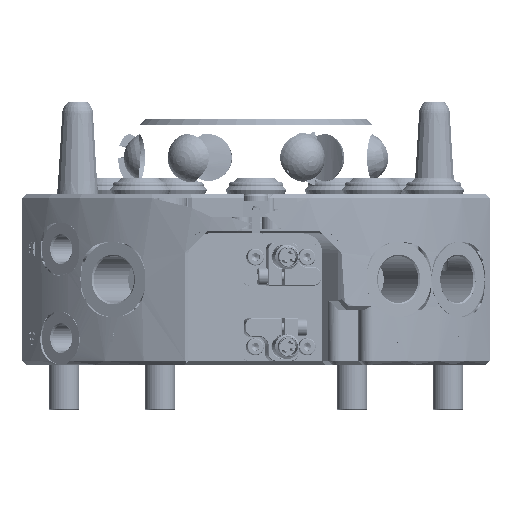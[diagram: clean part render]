
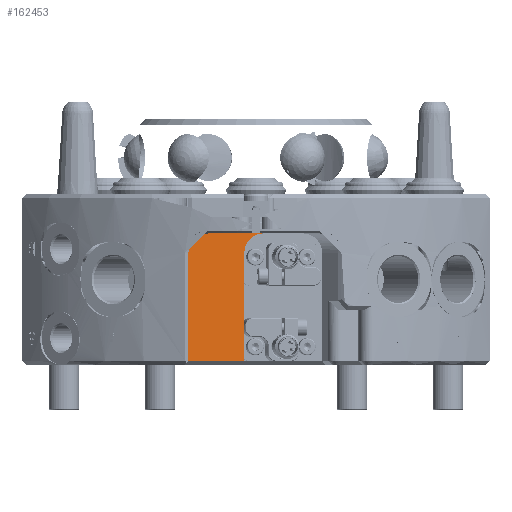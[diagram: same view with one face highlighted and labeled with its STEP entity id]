
A CAD part, left-side view. The second image highlights one B-rep face of the part: STEP entity #162453.
In plain terms, the highlighted planar face has unit normal (0.99, 0.139, 0).
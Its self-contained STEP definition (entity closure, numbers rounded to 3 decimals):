
#596 = DIRECTION ( 'NONE',  ( 0., 0., 1. ) ) ;
#1858 = B_SPLINE_CURVE_WITH_KNOTS ( 'NONE', 3,
 ( #85074, #99276, #141988, #57220, #156207, #71480 ),
 .UNSPECIFIED., .F., .F.,
 ( 4, 2, 4 ),
 ( 0., 0.5, 1. ),
 .UNSPECIFIED. ) ;
#5485 = CARTESIAN_POINT ( 'NONE',  ( -72.668, -2.437, -37.2 ) ) ;
#8625 = AXIS2_PLACEMENT_3D ( 'NONE', #54927, #153926, #69181 ) ;
#12131 = DIRECTION ( 'NONE',  ( 0.139, -0.99, 0. ) ) ;
#15771 = CARTESIAN_POINT ( 'NONE',  ( -74.508, 10.654, -37.2 ) ) ;
#16792 = VECTOR ( 'NONE', #596, 1000. ) ;
#18589 = CARTESIAN_POINT ( 'NONE',  ( -76.37, 23.904, -57.95 ) ) ;
#19519 = EDGE_CURVE ( 'NONE', #58074, #92289, #171628, .T. ) ;
#30015 = DIRECTION ( 'NONE',  ( -0.139, 0.99, 0. ) ) ;
#34199 = ORIENTED_EDGE ( 'NONE', *, *, #19519, .F. ) ;
#38447 = ORIENTED_EDGE ( 'NONE', *, *, #143841, .F. ) ;
#41129 = CARTESIAN_POINT ( 'NONE',  ( -73.545, 3.802, -43.5 ) ) ;
#42306 = CARTESIAN_POINT ( 'NONE',  ( -76.37, 23.904, -43.5 ) ) ;
#42616 = CARTESIAN_POINT ( 'NONE',  ( -73.545, 3.802, -57.95 ) ) ;
#53756 = LINE ( 'NONE', #18589, #62636 ) ;
#54927 = CARTESIAN_POINT ( 'NONE',  ( -76.37, 23.904, -37.2 ) ) ;
#57220 = CARTESIAN_POINT ( 'NONE',  ( -76.284, 23.295, -40.276 ) ) ;
#58074 = VERTEX_POINT ( 'NONE', #182256 ) ;
#59369 = CARTESIAN_POINT ( 'NONE',  ( -73.117, 0.756, -37.815 ) ) ;
#61660 = VERTEX_POINT ( 'NONE', #42306 ) ;
#62636 = VECTOR ( 'NONE', #67413, 1000. ) ;
#66369 = VERTEX_POINT ( 'NONE', #5485 ) ;
#67413 = DIRECTION ( 'NONE',  ( 0., 0., -1. ) ) ;
#69181 = DIRECTION ( 'NONE',  ( 0., 0., -1. ) ) ;
#71107 = VECTOR ( 'NONE', #30015, 1000. ) ;
#71480 = CARTESIAN_POINT ( 'NONE',  ( -76.37, 23.904, -43.5 ) ) ;
#73273 = EDGE_CURVE ( 'NONE', #61660, #58074, #53756, .T. ) ;
#73412 = ORIENTED_EDGE ( 'NONE', *, *, #105967, .F. ) ;
#73611 = CARTESIAN_POINT ( 'NONE',  ( -72.668, -2.437, -37.2 ) ) ;
#82349 = CARTESIAN_POINT ( 'NONE',  ( -73.545, 3.802, -43.5 ) ) ;
#83859 = ORIENTED_EDGE ( 'NONE', *, *, #73273, .F. ) ;
#85074 = CARTESIAN_POINT ( 'NONE',  ( -75.493, 17.665, -37.2 ) ) ;
#92289 = VERTEX_POINT ( 'NONE', #111533 ) ;
#96881 = CARTESIAN_POINT ( 'NONE',  ( -74.508, 10.654, -78.7 ) ) ;
#99276 = CARTESIAN_POINT ( 'NONE',  ( -75.735, 19.389, -37.2 ) ) ;
#105967 = EDGE_CURVE ( 'NONE', #113584, #61660, #1858, .T. ) ;
#111533 = CARTESIAN_POINT ( 'NONE',  ( -73.545, 3.802, -78.7 ) ) ;
#113584 = VERTEX_POINT ( 'NONE', #135298 ) ;
#125260 = LINE ( 'NONE', #42616, #16792 ) ;
#126964 = FACE_OUTER_BOUND ( 'NONE', #160655, .T. ) ;
#134016 = VECTOR ( 'NONE', #12131, 1000. ) ;
#135298 = CARTESIAN_POINT ( 'NONE',  ( -75.493, 17.665, -37.2 ) ) ;
#138677 = CARTESIAN_POINT ( 'NONE',  ( -73.545, 3.802, -41.76 ) ) ;
#141988 = CARTESIAN_POINT ( 'NONE',  ( -75.942, 20.858, -37.815 ) ) ;
#143841 = EDGE_CURVE ( 'NONE', #145250, #66369, #144914, .T. ) ;
#144131 = CARTESIAN_POINT ( 'NONE',  ( -73.459, 3.193, -40.276 ) ) ;
#144914 = B_SPLINE_CURVE_WITH_KNOTS ( 'NONE', 3,
 ( #82349, #138677, #144131, #59369, #158356, #73611 ),
 .UNSPECIFIED., .F., .F.,
 ( 4, 2, 4 ),
 ( 0., 0.5, 1. ),
 .UNSPECIFIED. ) ;
#145250 = VERTEX_POINT ( 'NONE', #41129 ) ;
#146712 = ORIENTED_EDGE ( 'NONE', *, *, #177521, .F. ) ;
#150714 = EDGE_CURVE ( 'NONE', #66369, #113584, #179605, .T. ) ;
#153926 = DIRECTION ( 'NONE',  ( -0.99, -0.139, 0. ) ) ;
#156207 = CARTESIAN_POINT ( 'NONE',  ( -76.37, 23.904, -41.761 ) ) ;
#158356 = CARTESIAN_POINT ( 'NONE',  ( -72.91, -0.715, -37.2 ) ) ;
#160655 = EDGE_LOOP ( 'NONE', ( #172502, #38447, #146712, #34199, #83859, #73412 ) ) ;
#162453 = ADVANCED_FACE ( 'NONE', ( #126964 ), #181784, .F. ) ;
#171628 = LINE ( 'NONE', #96881, #134016 ) ;
#172502 = ORIENTED_EDGE ( 'NONE', *, *, #150714, .F. ) ;
#177521 = EDGE_CURVE ( 'NONE', #92289, #145250, #125260, .T. ) ;
#179605 = LINE ( 'NONE', #15771, #71107 ) ;
#181784 = PLANE ( 'NONE',  #8625 ) ;
#182256 = CARTESIAN_POINT ( 'NONE',  ( -76.37, 23.904, -78.7 ) ) ;
